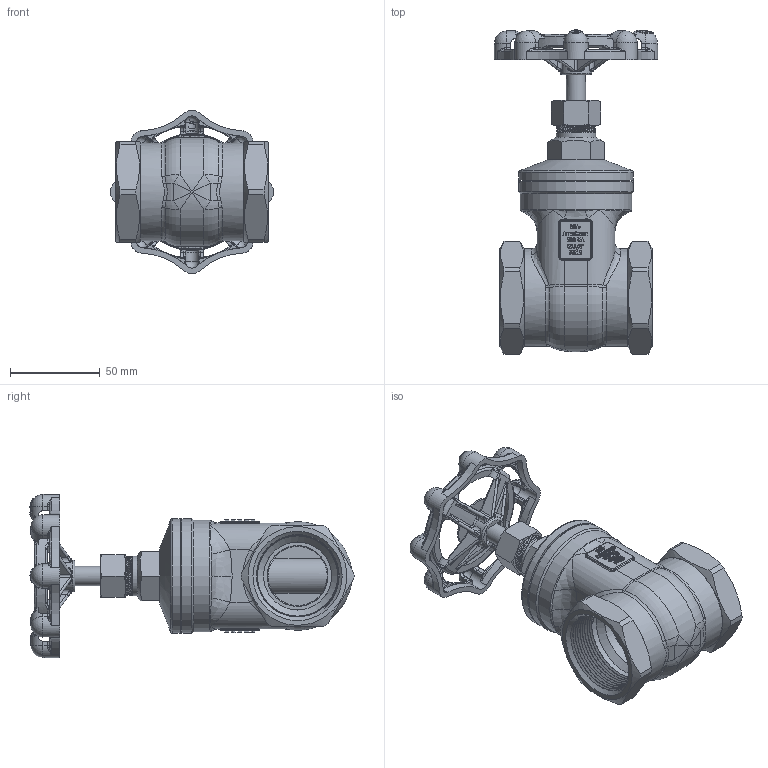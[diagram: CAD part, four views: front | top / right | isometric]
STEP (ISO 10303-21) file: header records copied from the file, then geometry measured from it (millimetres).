
FILE_DESCRIPTION((''),'2;1');
FILE_NAME('K:\Inventor\1 Artikel\8) Absperrschieber\Haitima\508-VA, 2029\508-VA, G1,5\508-VA, G1,5, 3D\508-VA, G1,5, PN15, 3D.stp','2020-02-18T14:30:42',('claudia'),(''),'Autodesk Inventor 2013','Autodesk Inventor 2013','');
FILE_SCHEMA(('AUTOMOTIVE_DESIGN { 1 0 10303 214 1 1 1 1 }'));
Length unit declared in the file: millimetre
Products named in the file (1): Bauteil4
Bounding box: 91 x 180.8 x 91 mm (x, y, z)
Volume: 178067.2 mm3; surface area: 106935.9 mm2
Topology: 1 solids, 10 shells, 2518 faces, 6890 edges, 4445 vertices
Faces by surface type: bspline 1041, plane 808, cylinder 352, torus 176, cone 90, sphere 51
Full cylindrical faces by diameter (mm): 3 x2, 8 x2, 10.7 x4, 11.113 x47, 11.5 x2, 11.7 x1, 12.4 x1, 14 x2, 14.8 x1, 16 x1, 16.8 x3, 17.5 x1, 18 x1, 20.376 x1, 22 x1, 23.4 x1, 24.918 x1, 28.2 x1, 30 x1, 38 x2, 44.8 x3, 47 x1, 54.5 x2, 56 x1, 60 x1, 61 x1, 62 x1, 64 x2, 65 x1
Entity records: 185689 total; most frequent: CARTESIAN_POINT 131122, ORIENTED_EDGE 13102, DIRECTION 8112, EDGE_CURVE 6551, VERTEX_POINT 4275, AXIS2_PLACEMENT_3D 2794, EDGE_LOOP 2688, VECTOR 2524
